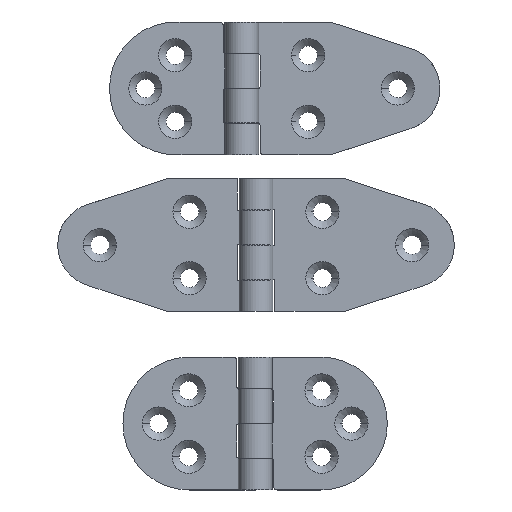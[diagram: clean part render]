
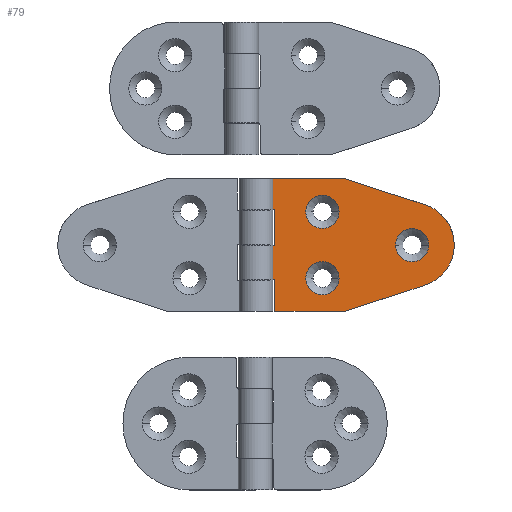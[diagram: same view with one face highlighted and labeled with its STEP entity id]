
A CAD part, top view. The second image highlights one B-rep face of the part: STEP entity #79.
In plain terms, the highlighted planar face has unit normal (0, 0, 1).
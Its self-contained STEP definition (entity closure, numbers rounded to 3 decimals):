
#79=ADVANCED_FACE('',(#345,#310,#311,#312),#3586,.T.);
#310=FACE_BOUND('',#579,.T.);
#311=FACE_BOUND('',#580,.T.);
#312=FACE_BOUND('',#581,.T.);
#345=FACE_OUTER_BOUND('',#578,.T.);
#578=EDGE_LOOP('',(#862,#863,#864,#865,#866,#867,#868,#869,#870,#871,#872));
#579=EDGE_LOOP('',(#873,#874));
#580=EDGE_LOOP('',(#875,#876));
#581=EDGE_LOOP('',(#877,#878));
#862=ORIENTED_EDGE('',*,*,#2002,.T.);
#863=ORIENTED_EDGE('',*,*,#1997,.F.);
#864=ORIENTED_EDGE('',*,*,#2027,.T.);
#865=ORIENTED_EDGE('',*,*,#2028,.T.);
#866=ORIENTED_EDGE('',*,*,#1996,.F.);
#867=ORIENTED_EDGE('',*,*,#2008,.T.);
#868=ORIENTED_EDGE('',*,*,#2009,.T.);
#869=ORIENTED_EDGE('',*,*,#1998,.T.);
#870=ORIENTED_EDGE('',*,*,#2039,.F.);
#871=ORIENTED_EDGE('',*,*,#2042,.T.);
#872=ORIENTED_EDGE('',*,*,#2038,.T.);
#873=ORIENTED_EDGE('',*,*,#2055,.F.);
#874=ORIENTED_EDGE('',*,*,#2016,.F.);
#875=ORIENTED_EDGE('',*,*,#2060,.F.);
#876=ORIENTED_EDGE('',*,*,#2021,.F.);
#877=ORIENTED_EDGE('',*,*,#2065,.F.);
#878=ORIENTED_EDGE('',*,*,#2026,.F.);
#1996=EDGE_CURVE('',#3021,#3044,#3944,.T.);
#1997=EDGE_CURVE('',#3042,#3041,#3945,.T.);
#1998=EDGE_CURVE('',#3020,#3013,#3946,.T.);
#2002=EDGE_CURVE('',#3040,#3041,#3948,.T.);
#2008=EDGE_CURVE('',#3021,#3019,#2879,.T.);
#2009=EDGE_CURVE('',#3019,#3020,#2880,.T.);
#2016=EDGE_CURVE('',#3024,#3053,#2619,.T.);
#2021=EDGE_CURVE('',#3027,#3056,#2622,.T.);
#2026=EDGE_CURVE('',#3030,#3059,#2625,.T.);
#2027=EDGE_CURVE('',#3042,#3043,#3952,.T.);
#2028=EDGE_CURVE('',#3043,#3044,#3953,.T.);
#2038=EDGE_CURVE('',#3039,#3040,#3960,.T.);
#2039=EDGE_CURVE('',#3038,#3013,#3961,.T.);
#2042=EDGE_CURVE('',#3038,#3039,#3963,.T.);
#2055=EDGE_CURVE('',#3053,#3024,#2634,.T.);
#2060=EDGE_CURVE('',#3056,#3027,#2637,.T.);
#2065=EDGE_CURVE('',#3059,#3030,#2640,.T.);
#2619=TRIMMED_CURVE($,#3667,(#5738),(#5739),.T.,.CARTESIAN.);
#2622=TRIMMED_CURVE($,#3670,(#5753),(#5754),.T.,.CARTESIAN.);
#2625=TRIMMED_CURVE($,#3673,(#5768),(#5769),.T.,.CARTESIAN.);
#2634=TRIMMED_CURVE($,#3682,(#5837),(#5838),.T.,.CARTESIAN.);
#2637=TRIMMED_CURVE($,#3685,(#5852),(#5853),.T.,.CARTESIAN.);
#2640=TRIMMED_CURVE($,#3688,(#5867),(#5868),.T.,.CARTESIAN.);
#2879=(
BOUNDED_CURVE()
B_SPLINE_CURVE(2,(#5708,#5709,#5710,#5711,#5712),.UNSPECIFIED.,.F.,.F.)
B_SPLINE_CURVE_WITH_KNOTS((3,2,3),(0.,25.511,41.446),
 .UNSPECIFIED.)
CURVE()
GEOMETRIC_REPRESENTATION_ITEM()
RATIONAL_B_SPLINE_CURVE((1.,1.,1.,0.81,1.))
REPRESENTATION_ITEM('')
);
#2880=(
BOUNDED_CURVE()
B_SPLINE_CURVE(2,(#5713,#5714,#5715,#5716,#5717),.UNSPECIFIED.,.F.,.F.)
B_SPLINE_CURVE_WITH_KNOTS((3,2,3),(-79.796,-63.861,
-38.35),.UNSPECIFIED.)
CURVE()
GEOMETRIC_REPRESENTATION_ITEM()
RATIONAL_B_SPLINE_CURVE((1.,0.81,1.,1.,1.))
REPRESENTATION_ITEM('')
);
#3013=VERTEX_POINT('',#5622);
#3019=VERTEX_POINT('',#5628);
#3020=VERTEX_POINT('',#5629);
#3021=VERTEX_POINT('',#5630);
#3024=VERTEX_POINT('',#5633);
#3027=VERTEX_POINT('',#5636);
#3030=VERTEX_POINT('',#5639);
#3038=VERTEX_POINT('',#5647);
#3039=VERTEX_POINT('',#5648);
#3040=VERTEX_POINT('',#5649);
#3041=VERTEX_POINT('',#5650);
#3042=VERTEX_POINT('',#5651);
#3043=VERTEX_POINT('',#5652);
#3044=VERTEX_POINT('',#5653);
#3053=VERTEX_POINT('',#5662);
#3056=VERTEX_POINT('',#5665);
#3059=VERTEX_POINT('',#5668);
#3586=PLANE('',#4270);
#3667=CIRCLE('',#4294,5.);
#3670=CIRCLE('',#4297,5.);
#3673=CIRCLE('',#4300,5.);
#3682=CIRCLE('',#4309,5.);
#3685=CIRCLE('',#4312,5.);
#3688=CIRCLE('',#4315,5.);
#3944=B_SPLINE_CURVE_WITH_KNOTS('',1,(#5679,#5680),.UNSPECIFIED.,.F.,.F.,
(2,2),(33.,54.06),.UNSPECIFIED.);
#3945=B_SPLINE_CURVE_WITH_KNOTS('',1,(#5681,#5682),.UNSPECIFIED.,.F.,.F.,
(2,2),(9.6,19.9),.UNSPECIFIED.);
#3946=B_SPLINE_CURVE_WITH_KNOTS('',1,(#5683,#5684),.UNSPECIFIED.,.F.,.F.,
(2,2),(33.,59.7),.UNSPECIFIED.);
#3948=B_SPLINE_CURVE_WITH_KNOTS('',1,(#5692,#5693),.UNSPECIFIED.,.F.,.F.,
(2,2),(52.4,58.),.UNSPECIFIED.);
#3952=B_SPLINE_CURVE_WITH_KNOTS('',1,(#5770,#5771),.UNSPECIFIED.,.F.,.F.,
(2,2),(-59.7,-54.06),.UNSPECIFIED.);
#3953=B_SPLINE_CURVE_WITH_KNOTS('',1,(#5772,#5773),.UNSPECIFIED.,.F.,.F.,
(2,2),(84.14,93.74),.UNSPECIFIED.);
#3960=B_SPLINE_CURVE_WITH_KNOTS('',1,(#5795,#5796),.UNSPECIFIED.,.F.,.F.,
(2,2),(41.7,52.4),.UNSPECIFIED.);
#3961=B_SPLINE_CURVE_WITH_KNOTS('',1,(#5797,#5798),.UNSPECIFIED.,.F.,.F.,
(2,2),(30.6,40.),.UNSPECIFIED.);
#3963=B_SPLINE_CURVE_WITH_KNOTS('',1,(#5803,#5804),.UNSPECIFIED.,.F.,.F.,
(2,2),(36.1,41.7),.UNSPECIFIED.);
#4270=AXIS2_PLACEMENT_3D('',#5461,#4717,$);
#4294=AXIS2_PLACEMENT_3D($,#5737,#4745,#4746);
#4297=AXIS2_PLACEMENT_3D($,#5752,#4751,#4752);
#4300=AXIS2_PLACEMENT_3D($,#5767,#4757,#4758);
#4309=AXIS2_PLACEMENT_3D($,#5836,#4775,#4776);
#4312=AXIS2_PLACEMENT_3D($,#5851,#4781,#4782);
#4315=AXIS2_PLACEMENT_3D($,#5866,#4787,#4788);
#4717=DIRECTION('',(0.,0.,1.));
#4745=DIRECTION('',(0.,0.,1.));
#4746=DIRECTION('',(-1.,0.,0.));
#4751=DIRECTION('',(0.,0.,1.));
#4752=DIRECTION('',(-1.,0.,0.));
#4757=DIRECTION('',(0.,0.,1.));
#4758=DIRECTION('',(-1.,0.,0.));
#4775=DIRECTION('',(0.,0.,1.));
#4776=DIRECTION('',(1.,0.,0.));
#4781=DIRECTION('',(0.,0.,1.));
#4782=DIRECTION('',(1.,0.,0.));
#4787=DIRECTION('',(0.,0.,1.));
#4788=DIRECTION('',(1.,0.,0.));
#5461=CARTESIAN_POINT('',(60.733,-37.111,5.974));
#5622=CARTESIAN_POINT('',(1.033,2.889,5.974));
#5628=CARTESIAN_POINT('',(60.733,-17.111,5.974));
#5629=CARTESIAN_POINT('',(27.733,2.889,5.974));
#5630=CARTESIAN_POINT('',(27.733,-37.111,5.974));
#5633=CARTESIAN_POINT('',(43.033,-17.111,5.974));
#5636=CARTESIAN_POINT('',(16.033,-7.111,5.974));
#5639=CARTESIAN_POINT('',(16.033,-27.111,5.974));
#5647=CARTESIAN_POINT('',(1.033,-6.511,5.974));
#5648=CARTESIAN_POINT('',(6.633,-6.511,5.974));
#5649=CARTESIAN_POINT('',(6.633,-17.211,5.974));
#5650=CARTESIAN_POINT('',(1.033,-17.211,5.974));
#5651=CARTESIAN_POINT('',(1.033,-27.511,5.974));
#5652=CARTESIAN_POINT('',(6.673,-27.511,5.974));
#5653=CARTESIAN_POINT('',(6.673,-37.111,5.974));
#5662=CARTESIAN_POINT('',(53.033,-17.111,5.974));
#5665=CARTESIAN_POINT('',(26.033,-7.111,5.974));
#5668=CARTESIAN_POINT('',(26.033,-27.111,5.974));
#5679=CARTESIAN_POINT('',(27.733,-37.111,5.974));
#5680=CARTESIAN_POINT('',(6.673,-37.111,5.974));
#5681=CARTESIAN_POINT('',(1.033,-27.511,5.974));
#5682=CARTESIAN_POINT('',(1.033,-17.211,5.974));
#5683=CARTESIAN_POINT('',(27.733,2.889,5.974));
#5684=CARTESIAN_POINT('',(1.033,2.889,5.974));
#5692=CARTESIAN_POINT('',(6.633,-17.211,5.974));
#5693=CARTESIAN_POINT('',(1.033,-17.211,5.974));
#5708=CARTESIAN_POINT('',(27.733,-37.111,5.974));
#5709=CARTESIAN_POINT('',(39.857,-33.147,5.974));
#5710=CARTESIAN_POINT('',(51.981,-29.182,5.974));
#5711=CARTESIAN_POINT('',(60.733,-26.32,5.974));
#5712=CARTESIAN_POINT('',(60.733,-17.111,5.974));
#5713=CARTESIAN_POINT('',(60.733,-17.111,5.974));
#5714=CARTESIAN_POINT('',(60.733,-7.903,5.974));
#5715=CARTESIAN_POINT('',(51.981,-5.04,5.974));
#5716=CARTESIAN_POINT('',(39.857,-1.076,5.974));
#5717=CARTESIAN_POINT('',(27.733,2.889,5.974));
#5737=CARTESIAN_POINT('',(48.033,-17.111,5.974));
#5738=CARTESIAN_POINT('',(43.033,-17.111,5.974));
#5739=CARTESIAN_POINT('',(53.033,-17.111,5.974));
#5752=CARTESIAN_POINT('',(21.033,-7.111,5.974));
#5753=CARTESIAN_POINT('',(16.033,-7.111,5.974));
#5754=CARTESIAN_POINT('',(26.033,-7.111,5.974));
#5767=CARTESIAN_POINT('',(21.033,-27.111,5.974));
#5768=CARTESIAN_POINT('',(16.033,-27.111,5.974));
#5769=CARTESIAN_POINT('',(26.033,-27.111,5.974));
#5770=CARTESIAN_POINT('',(1.033,-27.511,5.974));
#5771=CARTESIAN_POINT('',(6.673,-27.511,5.974));
#5772=CARTESIAN_POINT('',(6.673,-27.511,5.974));
#5773=CARTESIAN_POINT('',(6.673,-37.111,5.974));
#5795=CARTESIAN_POINT('',(6.633,-6.511,5.974));
#5796=CARTESIAN_POINT('',(6.633,-17.211,5.974));
#5797=CARTESIAN_POINT('',(1.033,-6.511,5.974));
#5798=CARTESIAN_POINT('',(1.033,2.889,5.974));
#5803=CARTESIAN_POINT('',(1.033,-6.511,5.974));
#5804=CARTESIAN_POINT('',(6.633,-6.511,5.974));
#5836=CARTESIAN_POINT('',(48.033,-17.111,5.974));
#5837=CARTESIAN_POINT('',(53.033,-17.111,5.974));
#5838=CARTESIAN_POINT('',(43.033,-17.111,5.974));
#5851=CARTESIAN_POINT('',(21.033,-7.111,5.974));
#5852=CARTESIAN_POINT('',(26.033,-7.111,5.974));
#5853=CARTESIAN_POINT('',(16.033,-7.111,5.974));
#5866=CARTESIAN_POINT('',(21.033,-27.111,5.974));
#5867=CARTESIAN_POINT('',(26.033,-27.111,5.974));
#5868=CARTESIAN_POINT('',(16.033,-27.111,5.974));
